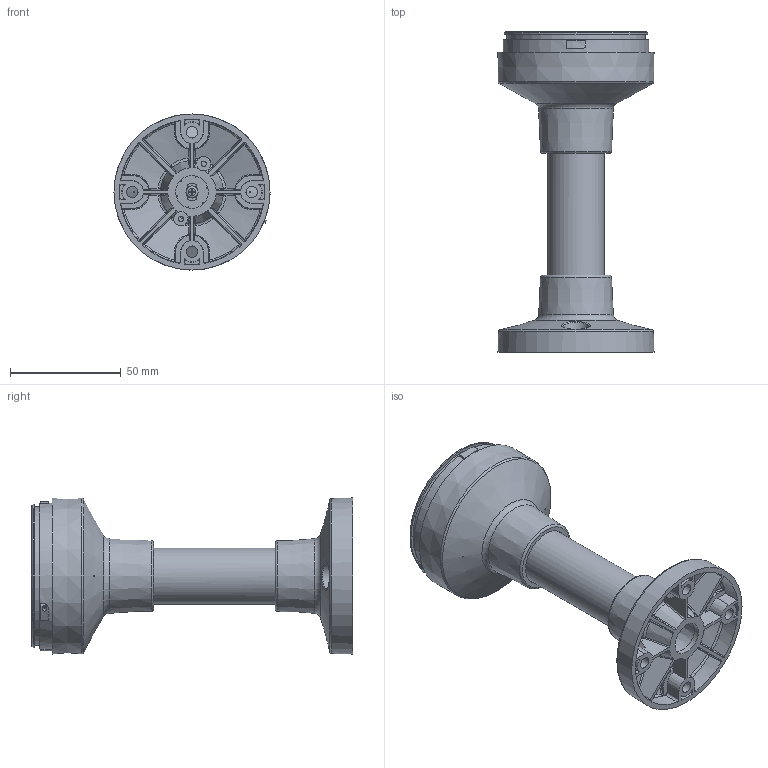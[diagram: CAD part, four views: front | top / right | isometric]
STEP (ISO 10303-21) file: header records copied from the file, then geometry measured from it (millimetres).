
FILE_DESCRIPTION(/* description */ (''),/* implementation_level */ '2;1');
FILE_NAME(/* name */ '3DCAD_A7_V1_MP1_DS_ROG_T_100.stp',/* time_stamp */ '2019-08-26T12:46:51+02:00',/* author */ ('CC2'),/* organization */ ('Leuze electronic'),/* preprocessor_version */ 'ST-DEVELOPER v16',/* originating_system */ 'SIEMENS PLM Software NX 11.0',/* authorisation */ '');
FILE_SCHEMA (('AUTOMOTIVE_DESIGN { 1 0 10303 214 3 1 1 1 }'));
Length unit declared in the file: millimetre
Products named in the file (1): 19-103006_00_1-3DCAD_A7_V1_MP1_DS_ROG_T_100
Bounding box: 70.6 x 145.2 x 70.6 mm (x, y, z)
Volume: 86114 mm3; surface area: 68539.9 mm2
Topology: 1 solids, 5 shells, 1353 faces, 3643 edges, 2313 vertices
Faces by surface type: plane 747, cylinder 263, bspline 138, cone 91, torus 86, sphere 28
Full cylindrical faces by diameter (mm): 0.568 x10, 0.75 x6, 1 x6, 2.4 x5, 3.2 x3, 5.5 x3, 12 x4, 22.8 x1, 25.4 x1, 62.5 x1, 65.1 x1, 66 x1
Entity records: 51811 total; most frequent: CARTESIAN_POINT 19176, ORIENTED_EDGE 7020, DIRECTION 6412, EDGE_CURVE 3510, VERTEX_POINT 2274, AXIS2_PLACEMENT_3D 2250, LINE 1912, VECTOR 1912
